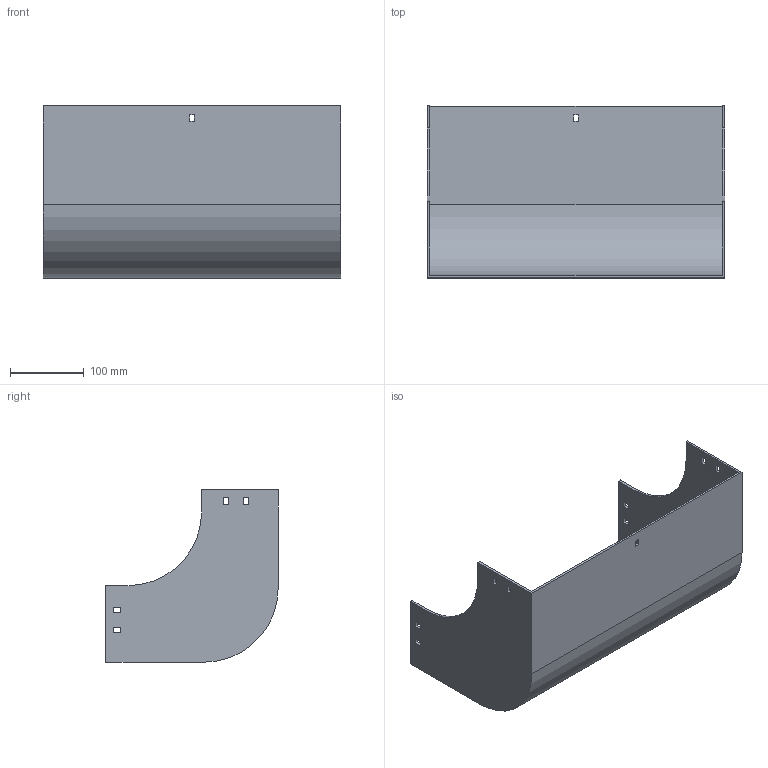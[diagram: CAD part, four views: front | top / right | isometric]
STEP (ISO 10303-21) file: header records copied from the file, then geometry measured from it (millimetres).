
FILE_DESCRIPTION (( 'STEP AP214' ), '1' );
FILE_NAME ('30F1D400.step', '2025-02-21T13:01:14', ( '' ), ( '' ), 'SwSTEP 2.0', 'SolidWorks 2023', '' );
FILE_SCHEMA (( 'AUTOMOTIVE_DESIGN' ));
Length unit declared in the file: millimetre
Products named in the file (1): 30F1D400
Bounding box: 404 x 234 x 234 mm (x, y, z)
Volume: 849451.1 mm3; surface area: 492343.4 mm2
Topology: 1 solids, 1 shells, 58 faces, 168 edges, 112 vertices
Faces by surface type: plane 54, cylinder 4
Entity records: 1943 total; most frequent: CARTESIAN_POINT 339, ORIENTED_EDGE 336, DIRECTION 294, EDGE_CURVE 168, LINE 160, VECTOR 160, VERTEX_POINT 112, EDGE_LOOP 78
